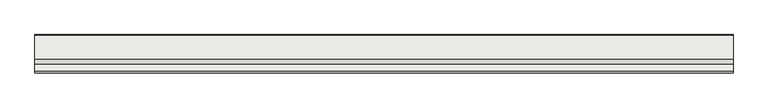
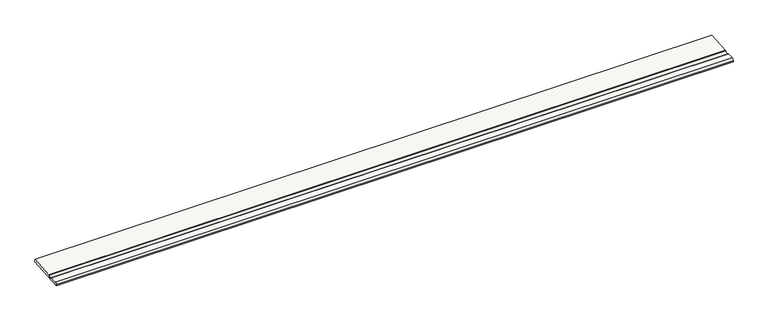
"""IFC4 building model written with IfcOpenShell, lengths in millimetres: slab geometry, ROSA GRES_647 : Pieza 647_Tresor_Java_Anti-Slip."""

from ifc_helpers import new_model, si_unit, frame, origin, place, context, project, spatial, circle_curve, source, transform, mapped, element, save
from ifc_brep_helpers import plane_surface, cylinder_surface, extruded_surface, spline_curve, advanced_brep


def slab_32e313b5(model_context):
    return source(origin(), model_context, "Body", "AdvancedBrep", [
        advanced_brep(
        [(5695.6698937, 312.4610396, 200.4), (5695.6698937, 310.5139904, 224.3208904), (5695.6698937, 111.5603594, 208.1269902), (5695.6698937, 108.1366744, 205.4139674), (5695.6698937, 74.4350079, 202.4439776), (5695.6698937, 70.7191394, 204.8027049), (5695.6698937, 13.5688214, 200.1509348), (5695.6698937, 0.0, 183.4954886), (5695.6698937, 0.6896004, 175.023255), (0.0, 312.4610396, 200.4), (0.0, 0.6896004, 175.023255), (0.0, 0.0, 183.4954886), (0.0, 13.5688214, 200.1509348), (0.0, 70.7191394, 204.8027049), (0.0, 74.4350079, 202.4439776), (0.0, 108.1366744, 205.4139674), (0.0, 111.5603594, 208.1269902), (0.0, 310.5139904, 224.3208904)],
        [
            (0, 1),
            (1, 2),
            (2, 3, circle_curve(frame((5695.6698937, 112.7778217, 203.073858), z_axis=(1.0, 0.0, 0.0), x_axis=(0.0, -0.9721812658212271, -0.23422977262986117)), 5.1977265)),
            (3, 4, spline_curve(3, [(5695.6698937, 108.1366744, 205.4139674), (5695.6698937, 106.768676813, 201.203703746), (5695.6698937, 104.825548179, 198.933150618), (5695.6698937, 100.979706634, 195.80171663), (5695.6698937, 99.076834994, 194.919471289), (5695.6698937, 95.529484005, 193.892358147), (5695.6698937, 93.936958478, 193.839972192), (5695.6698937, 89.380129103, 193.491271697), (5695.6698937, 86.940704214, 193.269280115), (5695.6698937, 84.450468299, 193.130570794), (5695.6698937, 83.981188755, 193.155682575), (5695.6698937, 83.143555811, 193.269739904), (5695.6698937, 82.90183945, 193.307735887), (5695.6698937, 82.250393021, 193.484437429), (5695.6698937, 81.852018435, 193.616747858), (5695.6698937, 81.158987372, 193.901839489), (5695.6698937, 80.86345902, 194.05443266), (5695.6698937, 80.265381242, 194.404490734), (5695.6698937, 79.963478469, 194.604102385), (5695.6698937, 79.295890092, 195.18041529), (5695.6698937, 78.927473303, 195.579375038), (5695.6698937, 78.366360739, 196.272977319), (5695.6698937, 78.157395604, 196.574428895), (5695.6698937, 77.69995301, 197.408414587), (5695.6698937, 77.67770289, 197.812929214), (5695.6698937, 74.4350079, 202.4439776)], [4, 2, 2, 2, 2, 2, 2, 2, 2, 2, 2, 2, 4], [0.0, 0.018498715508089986, 0.036709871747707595, 0.05693783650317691, 0.07136034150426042, 0.08248687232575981, 0.08651444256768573, 0.09029211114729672, 0.09403692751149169, 0.09800696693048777, 0.10257884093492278, 0.10657589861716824, 0.11512685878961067])),
            (4, 5, spline_curve(3, [(5695.6698937, 74.4350079, 202.4439776), (5695.6698937, 73.603198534, 203.944601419), (5695.6698937, 72.364575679, 204.730843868), (5695.6698937, 70.7191394, 204.8027049)], [4, 4], [0.0, 0.008274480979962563])),
            (5, 6),
            (6, 7, circle_curve(frame((5695.6698937, 16.0570568, 184.2689933), z_axis=(1.0, 0.0, 0.0), x_axis=(0.0, -0.9879485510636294, -0.1547826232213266)), 16.0756768)),
            (7, 8),
            (8, 0),
            (9, 10),
            (10, 11),
            (11, 12, circle_curve(frame((0.0, 16.0570568, 184.2689933), z_axis=(-1.0, 0.0, 0.0), x_axis=(0.0, -0.9879485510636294, -0.1547826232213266)), 16.0756768)),
            (12, 13),
            (13, 14, spline_curve(3, [(0.0, 70.7191394, 204.8027049), (0.0, 72.364575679, 204.730843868), (0.0, 73.603198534, 203.944601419), (0.0, 74.4350079, 202.4439776)], [4, 4], [0.0, 0.008274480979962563])),
            (14, 15, spline_curve(3, [(0.0, 74.4350079, 202.4439776), (0.0, 77.67770289, 197.812929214), (0.0, 77.69995301, 197.408414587), (0.0, 78.157395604, 196.574428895), (0.0, 78.366360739, 196.272977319), (0.0, 78.927473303, 195.579375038), (0.0, 79.295890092, 195.18041529), (0.0, 79.963478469, 194.604102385), (0.0, 80.265381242, 194.404490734), (0.0, 80.86345902, 194.05443266), (0.0, 81.158987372, 193.901839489), (0.0, 81.852018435, 193.616747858), (0.0, 82.250393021, 193.484437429), (0.0, 82.90183945, 193.307735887), (0.0, 83.143555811, 193.269739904), (0.0, 83.981188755, 193.155682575), (0.0, 84.450468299, 193.130570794), (0.0, 86.940704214, 193.269280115), (0.0, 89.380129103, 193.491271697), (0.0, 93.936958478, 193.839972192), (0.0, 95.529484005, 193.892358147), (0.0, 99.076834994, 194.919471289), (0.0, 100.979706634, 195.80171663), (0.0, 104.825548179, 198.933150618), (0.0, 106.768676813, 201.203703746), (0.0, 108.1366744, 205.4139674)], [4, 2, 2, 2, 2, 2, 2, 2, 2, 2, 2, 2, 4], [0.0, 0.008550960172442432, 0.012548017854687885, 0.017119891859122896, 0.02108993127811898, 0.024834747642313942, 0.02861241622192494, 0.032639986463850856, 0.04376651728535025, 0.05818902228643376, 0.07841698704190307, 0.09662814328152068, 0.11512685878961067])),
            (15, 16, circle_curve(frame((0.0, 112.7778217, 203.073858), z_axis=(-1.0, 0.0, 0.0), x_axis=(0.0, -0.9721812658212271, -0.23422977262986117)), 5.1977265)),
            (16, 17),
            (17, 9),
            (8, 10),
            (9, 0),
            (7, 11),
            (6, 12),
            (5, 13),
            (2, 16),
            (15, 3),
            (1, 17),
            (14, 4),
        ],
        [
            plane_surface(frame((5695.6698937, 310.6639591, 222.4784169), z_axis=(1.0, 0.0, 0.0), x_axis=(0.0, -0.08112705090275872, 0.996703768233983))),
            plane_surface(frame((0.0, 310.6639591, 222.4784169), z_axis=(-1.0, 0.0, 0.0), x_axis=(0.0, 0.08112705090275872, -0.996703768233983))),
            plane_surface(frame((5695.6698937, 156.57532, 187.7116275), z_axis=(0.0, 0.08112705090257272, -0.9967037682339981), x_axis=(0.0, 0.9967037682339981, 0.08112705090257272))),
            plane_surface(frame((5695.6698937, 0.3448002, 179.2593718), z_axis=(0.0, -0.9967037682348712, -0.08112705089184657), x_axis=(0.0, 0.08112705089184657, -0.9967037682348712))),
            cylinder_surface(frame((5695.6698937, 16.0570568, 184.2689933), z_axis=(-1.0, 0.0, 0.0), x_axis=(0.0, -0.9879485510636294, -0.1547826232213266)), 16.0756768),
            plane_surface(frame((5695.6698937, 42.1439804, 202.4768199), z_axis=(0.0, -0.08112705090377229, 0.9967037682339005), x_axis=(0.0, -0.9967037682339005, -0.08112705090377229))),
            cylinder_surface(frame((5695.6698937, 112.7778217, 203.073858), z_axis=(-1.0, 0.0, 0.0), x_axis=(0.0, -0.9721812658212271, -0.23422977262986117)), 5.1977265),
            plane_surface(frame((5695.6698937, 211.0371749, 216.2239403), z_axis=(0.0, -0.08112705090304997, 0.9967037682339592), x_axis=(0.0, -0.9967037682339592, -0.08112705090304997))),
            plane_surface(frame((5695.6698937, 311.487515, 212.3604452), z_axis=(0.0, 0.9967037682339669, 0.08112705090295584), x_axis=(0.0, -0.08112705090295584, 0.9967037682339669))),
            extruded_surface(spline_curve(3, [(0.0, 108.1366744, 205.4139674), (0.0, 106.768676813, 201.203703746), (0.0, 104.825548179, 198.933150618), (0.0, 100.979706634, 195.80171663), (0.0, 99.076834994, 194.919471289), (0.0, 95.529484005, 193.892358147), (0.0, 93.936958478, 193.839972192), (0.0, 89.380129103, 193.491271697), (0.0, 86.940704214, 193.269280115), (0.0, 84.450468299, 193.130570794), (0.0, 83.981188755, 193.155682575), (0.0, 83.143555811, 193.269739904), (0.0, 82.90183945, 193.307735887), (0.0, 82.250393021, 193.484437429), (0.0, 81.852018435, 193.616747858), (0.0, 81.158987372, 193.901839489), (0.0, 80.86345902, 194.05443266), (0.0, 80.265381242, 194.404490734), (0.0, 79.963478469, 194.604102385), (0.0, 79.295890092, 195.18041529), (0.0, 78.927473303, 195.579375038), (0.0, 78.366360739, 196.272977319), (0.0, 78.157395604, 196.574428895), (0.0, 77.69995301, 197.408414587), (0.0, 77.67770289, 197.812929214), (0.0, 74.4350079, 202.4439776)], [4, 2, 2, 2, 2, 2, 2, 2, 2, 2, 2, 2, 4], [0.0, 0.018498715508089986, 0.036709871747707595, 0.05693783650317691, 0.07136034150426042, 0.08248687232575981, 0.08651444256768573, 0.09029211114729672, 0.09403692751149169, 0.09800696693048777, 0.10257884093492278, 0.10657589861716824, 0.11512685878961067]), (5695.6698937, 0.0, 0.0), 5695.6698937),
            extruded_surface(spline_curve(3, [(0.0, 74.4350079, 202.4439776), (0.0, 73.603198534, 203.944601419), (0.0, 72.364575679, 204.730843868), (0.0, 70.7191394, 204.8027049)], [4, 4], [0.0, 0.008274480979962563]), (5695.6698937, 0.0, 0.0), 5695.6698937),
        ],
        [
            (0, [[1, 2, 3, 4, 5, 6, 7, 8, 9]]),
            (1, [[10, 11, 12, 13, 14, 15, 16, 17, 18]]),
            (2, [[-9, 19, -10, 20]]),
            (3, [[-8, 21, -11, -19]]),
            (4, [[-7, 22, -12, -21]]),
            (5, [[-6, 23, -13, -22]]),
            (6, [[-3, 24, -16, 25]]),
            (7, [[-2, 26, -17, -24]]),
            (8, [[-1, -20, -18, -26]]),
            (9, [[-4, -25, -15, 27]]),
            (10, [[-5, -27, -14, -23]]),
        ],
    ),
    ])


if __name__ == "__main__":
    model = new_model("IFC4")
    model_context = context("Model", 3, world=origin())
    ifc_project = project(units=[si_unit("LENGTHUNIT", "METRE", prefix="MILLI")], contexts=[model_context])
    site = spatial("IfcSite", under=ifc_project)
    building = spatial("IfcBuilding", under=site)
    placement = place(None, origin())
    slab_shape = slab_32e313b5(model_context)
    element("IfcSlab", 1, ObjectType="ROSA GRES_647 : Pieza 647_Tresor_Java_Anti-Slip", at=placement, inside=building, context=model_context, shape_type="MappedRepresentation", body=[
        mapped(slab_shape, transform((0.0, 0.0, 0.0), x_axis=(1.0, 0.0, 0.0), y_axis=(0.0, 1.0, 0.0), z_axis=(0.0, 0.0, 1.0))),
    ])
    save(model, "model.ifc")
